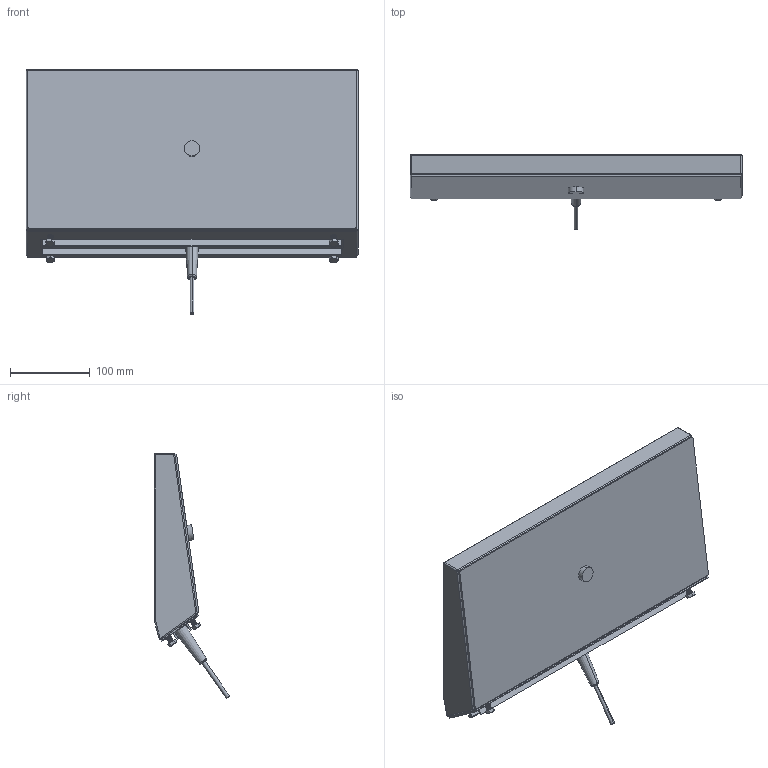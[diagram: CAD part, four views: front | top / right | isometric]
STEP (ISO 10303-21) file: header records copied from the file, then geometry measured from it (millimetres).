
FILE_DESCRIPTION (( 'STEP AP214' ), '1' );
FILE_NAME ('Panel Mount Keyboard, KB-xx-W35.STEP', '2018-02-02T13:26:04', ( '' ), ( '' ), 'SwSTEP 2.0', 'SolidWorks 2017', '' );
FILE_SCHEMA (( 'AUTOMOTIVE_DESIGN' ));
Length unit declared in the file: inch
Products named in the file (5): Hex Head Cap Screw, 30521_91287A138; Gasket, 10459; Collar, 11167; Keyboard Enclosure, KB-xx-W35; Panel Mount Keyboard, KB-xx-W35
Assembly tree (7 placements, depth 2):
  Panel Mount Keyboard, KB-xx-W35
    Keyboard Enclosure, KB-xx-W35
    Collar, 11167
    Gasket, 10459
    Hex Head Cap Screw, 30521_91287A138  x4
Bounding box: 416.56 x 94.69 x 307.01 mm (x, y, z)
Volume: 3906601.6 mm3; surface area: 324451.9 mm2
Topology: 7 solids, 7 shells, 429 faces, 1138 edges, 721 vertices
Faces by surface type: cylinder 263, plane 99, cone 42, bspline 12, sphere 11, torus 2
Entity records: 10752 total; most frequent: CARTESIAN_POINT 5376, ORIENTED_EDGE 1080, DIRECTION 1019, EDGE_CURVE 540, AXIS2_PLACEMENT_3D 374, VERTEX_POINT 338, VECTOR 271, LINE 271
